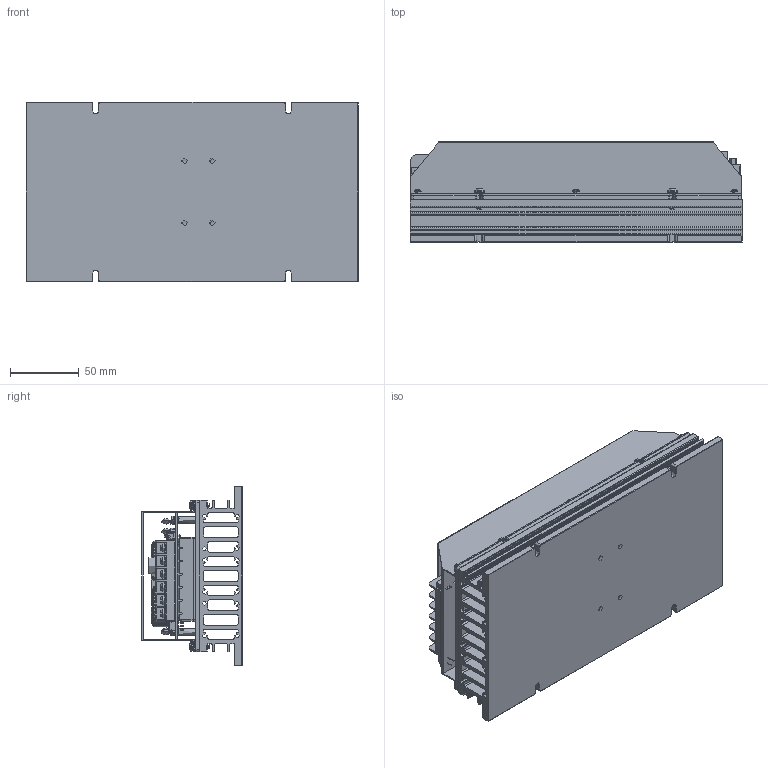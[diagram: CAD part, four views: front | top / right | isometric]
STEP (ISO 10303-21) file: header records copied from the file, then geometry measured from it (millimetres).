
FILE_DESCRIPTION (( 'STEP AP203' ), '1' );
FILE_NAME ('CFB750-300S CMFD HS 2024.11.14.STEP', '2024-11-14T05:46:26', ( '' ), ( '' ), 'SwSTEP 2.0', 'SolidWorks 2020', '' );
FILE_SCHEMA (( 'CONFIG_CONTROL_DESIGN' ));
Length unit declared in the file: millimetre
Products named in the file (1): CFB750-300S CMFD HS 2024.11.14
Bounding box: 241 x 73 x 130.32 mm (x, y, z)
Topology: 18 solids, 35 shells, 5801 faces, 16340 edges, 10604 vertices
Faces by surface type: plane 3169, cylinder 1387, bspline 609, torus 439, cone 197
Full cylindrical faces by diameter (mm): 0.6 x18, 0.8 x4, 0.936 x224, 1 x42, 1.2 x6, 1.4 x8, 1.5 x2, 2 x16, 2.4 x8, 2.5 x30, 2.8 x14, 2.846 x14, 2.9 x8, 3 x7, 3.2 x21, 3.25 x1, 3.5 x8, 3.8 x4, 3.9 x67, 4.5 x4, 5 x8, 5.06 x4, 5.2 x5, 5.246 x14, 5.3 x8, 5.8 x18, 6 x3, 6.3 x6, 7 x4, 10.2 x1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
Entity records: 291710 total; most frequent: CARTESIAN_POINT 159876, ORIENTED_EDGE 28956, DIRECTION 23935, EDGE_CURVE 14478, VERTEX_POINT 9858, AXIS2_PLACEMENT_3D 8012, VECTOR 7911, LINE 7911
